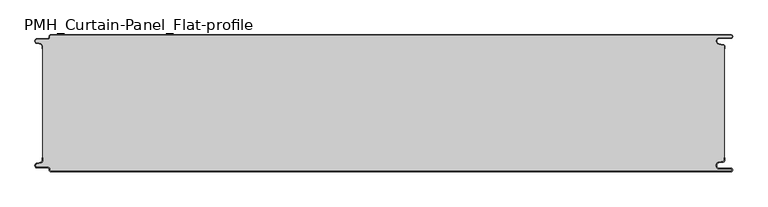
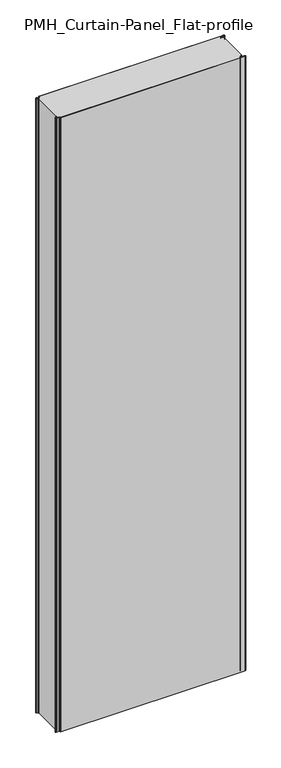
"""IFC4 building model written with IfcOpenShell, lengths in millimetres: plate geometry, PMH_Curtain-Panel_Flat-profile : ACH_PMH_Acoustic-Sectioning-Panel_200M."""

from ifc_helpers import new_model, si_unit, point, frame, frame_2d, origin, origin_with_axes, place, context, project, spatial, polyline, circle_curve, trimmed, segment, composite_curve, outline, extrude, source, transform, mapped, element, save
from ifc_brep_helpers import plane_surface, cylinder_surface, revolved_surface, advanced_brep


def pmh_curtain_panel_flat_profile_7e397283(model_context):
    return source(origin(), model_context, "Body", "SolidModel", [
        advanced_brep(
        [(508.1, 0.0, 3500.0), (510.6, 2.5000002, 3500.0), (508.1, 5.0, 3500.0), (491.1, 5.0, 3500.0), (490.405407, 12.939231, 3500.0), (496.8514855, 14.0758491, 3500.0), (499.0, 16.6363492, 3500.0), (499.0, 20.0, 3500.0), (498.2, 20.0, 3500.0), (498.2, 16.6363492, 3500.0), (496.7125669, 14.8636953, 3500.0), (490.2664884, 13.7270771, 3500.0), (491.1, 4.2, 3500.0), (508.1, 4.2, 3500.0), (508.1, 0.8, 3500.0), (-487.4, 0.8, 3500.0), (-488.6, 2.0, 3500.0), (-488.6, 3.4, 3500.0), (-491.4, 6.2, 3500.0), (-506.9, 6.2, 3500.0), (-507.529863, 11.7282362, 3500.0), (-501.370137, 13.150321, 3500.0), (-499.2, 15.878557, 3500.0), (-499.2, 20.0, 3500.0), (-500.0, 20.0, 3500.0), (-500.0, 15.878557, 3500.0), (-501.5500978, 13.9298169, 3500.0), (-507.7098239, 12.507732, 3500.0), (-506.9, 5.4, 3500.0), (-491.4, 5.4, 3500.0), (-489.4, 3.4, 3500.0), (-489.4, 2.0, 3500.0), (-487.4, 0.0, 3500.0), (-487.4, 0.0, 0.0), (-489.4, 2.0, 0.0), (-489.4, 3.4, 0.0), (-491.4, 5.4, 0.0), (-506.9, 5.4, 0.0), (-507.7098239, 12.5077322, 0.0), (-501.5500979, 13.929817, 0.0), (-500.0, 15.878557, 0.0), (-500.0, 20.0, 0.0), (-499.2, 20.0, 0.0), (-499.2, 15.878557, 0.0), (-501.370137, 13.1503208, 0.0), (-507.529863, 11.728236, 0.0), (-506.9, 6.2, 0.0), (-491.4, 6.2, 0.0), (-488.6, 3.4, 0.0), (-488.6, 2.0, 0.0), (-487.4, 0.8, 0.0), (508.1, 0.8, 0.0), (508.1, 4.2, 0.0), (491.1, 4.2, 0.0), (490.2664884, 13.7270771, 0.0), (496.7125669, 14.8636953, 0.0), (498.2, 16.6363492, 0.0), (498.2, 20.0, 0.0), (499.0, 20.0, 0.0), (499.0, 16.6363492, 0.0), (496.8514855, 14.0758491, 0.0), (490.405407, 12.939231, 0.0), (491.1, 5.0, 0.0), (508.1, 5.0, 0.0), (510.6, 2.4999998, 0.0), (508.1, 0.0, 0.0)],
        [
            (0, 1, circle_curve(frame((508.1, 2.5, 3500.0), z_axis=(0.0, 0.0, 1.0), x_axis=(1.0, 0.0, 0.0)), 2.5)),
            (1, 2, circle_curve(frame((508.1, 2.5, 3500.0), z_axis=(0.0, 0.0, 1.0), x_axis=(1.0, 0.0, 0.0)), 2.5)),
            (2, 3),
            (3, 4, circle_curve(frame((491.1, 9.0, 3500.0), z_axis=(0.0, 0.0, -1.0), x_axis=(1.0, 0.0, 0.0)), 4.0)),
            (4, 5),
            (5, 6, circle_curve(frame((496.4, 16.6363492, 3500.0), z_axis=(0.0, 0.0, 1.0), x_axis=(1.0, 0.0, 0.0)), 2.6)),
            (6, 7),
            (7, 8),
            (8, 9),
            (9, 10, circle_curve(frame((496.4, 16.6363492, 3500.0), z_axis=(0.0, 0.0, -1.0), x_axis=(1.0, 0.0, 0.0)), 1.8)),
            (10, 11),
            (11, 12, circle_curve(frame((491.1, 9.0, 3500.0), z_axis=(0.0, 0.0, 1.0), x_axis=(1.0, 0.0, 0.0)), 4.8)),
            (12, 13),
            (13, 14, circle_curve(frame((508.1, 2.5, 3500.0), z_axis=(0.0, 0.0, -1.0), x_axis=(1.0, 0.0, 0.0)), 1.7)),
            (14, 15),
            (15, 16, circle_curve(frame((-487.4, 2.0, 3500.0), z_axis=(0.0, 0.0, -1.0), x_axis=(1.0, 0.0, 0.0)), 1.2)),
            (16, 17),
            (17, 18, circle_curve(frame((-491.4, 3.4, 3500.0), z_axis=(0.0, 0.0, 1.0), x_axis=(1.0, 0.0, 0.0)), 2.8)),
            (18, 19),
            (19, 20, circle_curve(frame((-506.9, 9.0, 3500.0), z_axis=(0.0, 0.0, -1.0), x_axis=(1.0, 0.0, 0.0)), 2.8)),
            (20, 21),
            (21, 22, circle_curve(frame((-502.0, 15.878557, 3500.0), z_axis=(0.0, 0.0, 1.0), x_axis=(1.0, 0.0, 0.0)), 2.8)),
            (22, 23),
            (23, 24),
            (24, 25),
            (25, 26, circle_curve(frame((-502.0, 15.878557, 3500.0), z_axis=(0.0, 0.0, -1.0), x_axis=(1.0, 0.0, 0.0)), 2.0)),
            (26, 27),
            (27, 28, circle_curve(frame((-506.9, 9.0, 3500.0), z_axis=(0.0, 0.0, 1.0), x_axis=(1.0, 0.0, 0.0)), 3.6)),
            (28, 29),
            (29, 30, circle_curve(frame((-491.4, 3.4, 3500.0), z_axis=(0.0, 0.0, -1.0), x_axis=(1.0, 0.0, 0.0)), 2.0)),
            (30, 31),
            (31, 32, circle_curve(frame((-487.4, 2.0, 3500.0), z_axis=(0.0, 0.0, 1.0), x_axis=(1.0, 0.0, 0.0)), 2.0)),
            (32, 0),
            (33, 34, circle_curve(frame((-487.4, 2.0, 0.0), z_axis=(0.0, 0.0, -1.0), x_axis=(1.0, 0.0, 0.0)), 2.0)),
            (34, 35),
            (35, 36, circle_curve(frame((-491.4, 3.4, 0.0), z_axis=(0.0, 0.0, 1.0), x_axis=(1.0, 0.0, 0.0)), 2.0)),
            (36, 37),
            (37, 38, circle_curve(frame((-506.9, 9.0, 0.0), z_axis=(0.0, 0.0, -1.0), x_axis=(1.0, 0.0, 0.0)), 3.6)),
            (38, 39),
            (39, 40, circle_curve(frame((-502.0, 15.878557, 0.0), z_axis=(0.0, 0.0, 1.0), x_axis=(1.0, 0.0, 0.0)), 2.0)),
            (40, 41),
            (41, 42),
            (42, 43),
            (43, 44, circle_curve(frame((-502.0, 15.878557, 0.0), z_axis=(0.0, 0.0, -1.0), x_axis=(1.0, 0.0, 0.0)), 2.8)),
            (44, 45),
            (45, 46, circle_curve(frame((-506.9, 9.0, 0.0), z_axis=(0.0, 0.0, 1.0), x_axis=(1.0, 0.0, 0.0)), 2.8)),
            (46, 47),
            (47, 48, circle_curve(frame((-491.4, 3.4, 0.0), z_axis=(0.0, 0.0, -1.0), x_axis=(1.0, 0.0, 0.0)), 2.8)),
            (48, 49),
            (49, 50, circle_curve(frame((-487.4, 2.0, 0.0), z_axis=(0.0, 0.0, 1.0), x_axis=(1.0, 0.0, 0.0)), 1.2)),
            (50, 51),
            (51, 52, circle_curve(frame((508.1, 2.5, 0.0), z_axis=(0.0, 0.0, 1.0), x_axis=(1.0, 0.0, 0.0)), 1.7)),
            (52, 53),
            (53, 54, circle_curve(frame((491.1, 9.0, 0.0), z_axis=(0.0, 0.0, -1.0), x_axis=(1.0, 0.0, 0.0)), 4.8)),
            (54, 55),
            (55, 56, circle_curve(frame((496.4, 16.6363492, 0.0), z_axis=(0.0, 0.0, 1.0), x_axis=(1.0, 0.0, 0.0)), 1.8)),
            (56, 57),
            (57, 58),
            (58, 59),
            (59, 60, circle_curve(frame((496.4, 16.6363492, 0.0), z_axis=(0.0, 0.0, -1.0), x_axis=(1.0, 0.0, 0.0)), 2.6)),
            (60, 61),
            (61, 62, circle_curve(frame((491.1, 9.0, 0.0), z_axis=(0.0, 0.0, 1.0), x_axis=(1.0, 0.0, 0.0)), 4.0)),
            (62, 63),
            (63, 64, circle_curve(frame((508.1, 2.5, 0.0), z_axis=(0.0, 0.0, -1.0), x_axis=(1.0, 0.0, 0.0)), 2.5)),
            (64, 65, circle_curve(frame((508.1, 2.5, 0.0), z_axis=(0.0, 0.0, -1.0), x_axis=(1.0, 0.0, 0.0)), 2.5)),
            (65, 33),
            (31, 34),
            (33, 32),
            (30, 35),
            (29, 36),
            (28, 37),
            (27, 38),
            (26, 39),
            (25, 40),
            (24, 41),
            (23, 42),
            (22, 43),
            (21, 44),
            (20, 45),
            (19, 46),
            (18, 47),
            (17, 48),
            (16, 49),
            (15, 50),
            (14, 51),
            (13, 52),
            (12, 53),
            (11, 54),
            (10, 55),
            (9, 56),
            (8, 57),
            (7, 58),
            (6, 59),
            (5, 60),
            (4, 61),
            (3, 62),
            (2, 63),
            (0, 65),
        ],
        [
            plane_surface(frame((-500.0, 0.0, 3500.0), z_axis=(0.0, 0.0, 1.0), x_axis=(0.0, -1.0, 0.0))),
            plane_surface(frame((-500.0, 0.0, 0.0), z_axis=(0.0, 0.0, -1.0), x_axis=(0.0, -1.0, 0.0))),
            cylinder_surface(frame((-487.4, 2.0, 3500.0), z_axis=(0.0, 0.0, 1.0), x_axis=(1.0, 0.0, 0.0)), 2.0),
            plane_surface(frame((-489.4, 2.0, 3500.0), z_axis=(-1.0, 0.0, 0.0), x_axis=(0.0, 0.0, -1.0))),
            revolved_surface(polyline([(-489.4, 3.4, 0.0), (-489.4, 3.4, 3500.0)]), (-491.4, 3.4, 3500.0), (0.0, 0.0, -1.0)),
            plane_surface(frame((-491.4, 5.4, 3500.0), z_axis=(0.0, -1.0, 0.0), x_axis=(0.0, 0.0, -1.0))),
            cylinder_surface(frame((-506.9, 9.0, 3500.0), z_axis=(0.0, 0.0, 1.0), x_axis=(1.0, 0.0, 0.0)), 3.6),
            plane_surface(frame((-507.7098239, 12.507732, 3500.0), z_axis=(-0.2249510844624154, 0.9743700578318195, 0.0), x_axis=(0.0, 0.0, -1.0))),
            revolved_surface(polyline([(-500.0, 15.878557, 0.0), (-500.0, 15.878557, 3500.0)]), (-502.0, 15.878557, 3500.0), (0.0, 0.0, -1.0)),
            plane_surface(frame((-500.0, 15.878557, 3500.0), z_axis=(-1.0, 0.0, 0.0), x_axis=(0.0, 0.0, -1.0))),
            plane_surface(frame((-500.0, 20.0, 3500.0), z_axis=(0.0, 1.0, 0.0), x_axis=(0.0, 0.0, -1.0))),
            plane_surface(frame((-499.2, 20.0, 3500.0), z_axis=(1.0, 0.0, 0.0), x_axis=(0.0, 0.0, -1.0))),
            cylinder_surface(frame((-502.0, 15.878557, 3500.0), z_axis=(0.0, 0.0, 1.0), x_axis=(1.0, 0.0, 0.0)), 2.8),
            plane_surface(frame((-501.370137, 13.150321, 3500.0), z_axis=(0.22495108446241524, -0.9743700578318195, 0.0), x_axis=(0.0, 0.0, -1.0))),
            revolved_surface(polyline([(-504.09999999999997, 9.0, 0.0), (-504.09999999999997, 9.0, 3500.0)]), (-506.9, 9.0, 3500.0), (0.0, 0.0, -1.0)),
            plane_surface(frame((-506.9, 6.2, 3500.0), z_axis=(0.0, 1.0, 0.0), x_axis=(0.0, 0.0, -1.0))),
            cylinder_surface(frame((-491.4, 3.4, 3500.0), z_axis=(0.0, 0.0, 1.0), x_axis=(1.0, 0.0, 0.0)), 2.8),
            plane_surface(frame((-488.6, 3.4, 3500.0), z_axis=(1.0, 0.0, 0.0), x_axis=(0.0, 0.0, -1.0))),
            revolved_surface(polyline([(-486.2, 2.0, 0.0), (-486.2, 2.0, 3500.0)]), (-487.4, 2.0, 3500.0), (0.0, 0.0, -1.0)),
            plane_surface(frame((-487.4, 0.8, 3500.0), z_axis=(0.0, 1.0, 0.0), x_axis=(0.0, 0.0, -1.0))),
            revolved_surface(polyline([(509.8, 2.5, 0.0), (509.8, 2.5, 3500.0)]), (508.1, 2.5, 3500.0), (0.0, 0.0, -1.0)),
            plane_surface(frame((508.1, 4.2, 3500.0), z_axis=(0.0, -1.0, 0.0), x_axis=(0.0, 0.0, -1.0))),
            cylinder_surface(frame((491.1, 9.0, 3500.0), z_axis=(0.0, 0.0, 1.0), x_axis=(1.0, 0.0, 0.0)), 4.8),
            plane_surface(frame((490.2664884, 13.7270771, 3500.0), z_axis=(-0.17364826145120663, 0.984807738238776, 0.0), x_axis=(0.0, 0.0, -1.0))),
            revolved_surface(polyline([(498.2, 16.6363492, 0.0), (498.2, 16.6363492, 3500.0)]), (496.4, 16.6363492, 3500.0), (0.0, 0.0, -1.0)),
            plane_surface(frame((498.2, 16.6363492, 3500.0), z_axis=(-1.0, 0.0, 0.0), x_axis=(0.0, 0.0, -1.0))),
            plane_surface(frame((498.2, 20.0, 3500.0), z_axis=(0.0, 1.0, 0.0), x_axis=(0.0, 0.0, -1.0))),
            plane_surface(frame((499.0, 20.0, 3500.0), z_axis=(1.0, 0.0, 0.0), x_axis=(0.0, 0.0, -1.0))),
            cylinder_surface(frame((496.4, 16.6363492, 3500.0), z_axis=(0.0, 0.0, 1.0), x_axis=(1.0, 0.0, 0.0)), 2.6),
            plane_surface(frame((496.8514855, 14.0758491, 3500.0), z_axis=(0.17364826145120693, -0.9848077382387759, 0.0), x_axis=(0.0, 0.0, -1.0))),
            revolved_surface(polyline([(495.1, 9.0, 0.0), (495.1, 9.0, 3500.0)]), (491.1, 9.0, 3500.0), (0.0, 0.0, -1.0)),
            plane_surface(frame((491.1, 5.0, 3500.0), z_axis=(0.0, 1.0, 0.0), x_axis=(0.0, 0.0, -1.0))),
            cylinder_surface(frame((508.1, 2.5, 3500.0), z_axis=(0.0, 0.0, 1.0), x_axis=(1.0, 0.0, 0.0)), 2.5),
            plane_surface(frame((490.5783588, 0.0, 3500.0), z_axis=(0.0, -1.0, 0.0), x_axis=(0.0, 0.0, -1.0))),
        ],
        [
            (0, [[1, 2, 3, 4, 5, 6, 7, 8, 9, 10, 11, 12, 13, 14, 15, 16, 17, 18, 19, 20, 21, 22, 23, 24, 25, 26, 27, 28, 29, 30, 31, 32, 33]]),
            (1, [[34, 35, 36, 37, 38, 39, 40, 41, 42, 43, 44, 45, 46, 47, 48, 49, 50, 51, 52, 53, 54, 55, 56, 57, 58, 59, 60, 61, 62, 63, 64, 65, 66]]),
            (2, [[67, -34, 68, -32]]),
            (3, [[69, -35, -67, -31]]),
            (4, [[70, -36, -69, -30]]),
            (5, [[71, -37, -70, -29]]),
            (6, [[72, -38, -71, -28]]),
            (7, [[73, -39, -72, -27]]),
            (8, [[74, -40, -73, -26]]),
            (9, [[75, -41, -74, -25]]),
            (10, [[76, -42, -75, -24]]),
            (11, [[77, -43, -76, -23]]),
            (12, [[78, -44, -77, -22]]),
            (13, [[79, -45, -78, -21]]),
            (14, [[80, -46, -79, -20]]),
            (15, [[81, -47, -80, -19]]),
            (16, [[82, -48, -81, -18]]),
            (17, [[83, -49, -82, -17]]),
            (18, [[84, -50, -83, -16]]),
            (19, [[85, -51, -84, -15]]),
            (20, [[86, -52, -85, -14]]),
            (21, [[87, -53, -86, -13]]),
            (22, [[88, -54, -87, -12]]),
            (23, [[89, -55, -88, -11]]),
            (24, [[90, -56, -89, -10]]),
            (25, [[91, -57, -90, -9]]),
            (26, [[92, -58, -91, -8]]),
            (27, [[93, -59, -92, -7]]),
            (28, [[94, -60, -93, -6]]),
            (29, [[95, -61, -94, -5]]),
            (30, [[96, -62, -95, -4]]),
            (31, [[97, -63, -96, -3]]),
            (32, [[-2, -1, 98, -65, -64, -97]]),
            (33, [[-68, -66, -98, -33]]),
        ],
    ),
        extrude(outline(composite_curve([segment(trimmed(circle_curve(frame_2d((-502.0, 184.1214426)), 2.8), [point((-499.2, 184.1214426))], [point((-501.370137, 186.8496788))], True, "CARTESIAN"), True, "CONTINUOUS"), segment(polyline([(-501.370137, 186.8496788), (-507.5298631, 188.2717638)]), True, "CONTINUOUS"), segment(trimmed(circle_curve(frame_2d((-506.9, 191.0)), 2.8), [point((-507.5298631, 188.2717638))], [point((-506.9, 193.8))], False, "CARTESIAN"), True, "CONTINUOUS"), segment(polyline([(-506.9, 193.8), (-491.4000001, 193.8)]), True, "CONTINUOUS"), segment(trimmed(circle_curve(frame_2d((-491.4000001, 196.6)), 2.8), [point((-491.4000001, 193.8))], [point((-488.6000001, 196.6))], True, "CARTESIAN"), True, "CONTINUOUS"), segment(polyline([(-488.6000001, 196.6), (-488.6000001, 198.0)]), True, "CONTINUOUS"), segment(trimmed(circle_curve(frame_2d((-487.4000001, 198.0)), 1.2), [point((-488.6000001, 198.0))], [point((-487.4000001, 199.2))], False, "CARTESIAN"), True, "CONTINUOUS"), segment(polyline([(-487.4000001, 199.2), (508.1, 199.2)]), True, "CONTINUOUS"), segment(trimmed(circle_curve(frame_2d((508.1, 197.5)), 1.7), [point((508.1, 199.2))], [point((508.1, 195.8))], False, "CARTESIAN"), True, "CONTINUOUS"), segment(polyline([(508.1, 195.8), (491.1, 195.8)]), True, "CONTINUOUS"), segment(trimmed(circle_curve(frame_2d((491.1, 191.0)), 4.8), [point((491.1, 195.8))], [point((490.2664883, 186.2729229))], True, "CARTESIAN"), True, "CONTINUOUS"), segment(polyline([(490.2664883, 186.2729229), (496.7125668, 185.1363047)]), True, "CONTINUOUS"), segment(trimmed(circle_curve(frame_2d((496.4, 183.3636508)), 1.8), [point((496.7125668, 185.1363047))], [point((498.2, 183.3636508))], False, "CARTESIAN"), True, "CONTINUOUS"), segment(polyline([(498.2, 183.3636508), (498.2, 16.6363492)]), True, "CONTINUOUS"), segment(trimmed(circle_curve(frame_2d((496.4, 16.6363492)), 1.8), [point((498.2, 16.6363492))], [point((496.7125668, 14.8636953))], False, "CARTESIAN"), True, "CONTINUOUS"), segment(polyline([(496.7125668, 14.8636953), (490.2664883, 13.7270771)]), True, "CONTINUOUS"), segment(trimmed(circle_curve(frame_2d((491.1, 9.0)), 4.8), [point((490.2664883, 13.7270771))], [point((491.1, 4.2))], True, "CARTESIAN"), True, "CONTINUOUS"), segment(polyline([(491.1, 4.2), (508.1, 4.2)]), True, "CONTINUOUS"), segment(trimmed(circle_curve(frame_2d((508.1, 2.5)), 1.7), [point((508.1, 4.2))], [point((508.1, 0.8))], False, "CARTESIAN"), True, "CONTINUOUS"), segment(polyline([(508.1, 0.8), (-487.4000001, 0.8)]), True, "CONTINUOUS"), segment(trimmed(circle_curve(frame_2d((-487.4000001, 2.0)), 1.2), [point((-487.4000001, 0.8))], [point((-488.6000001, 2.0))], False, "CARTESIAN"), True, "CONTINUOUS"), segment(polyline([(-488.6000001, 2.0), (-488.6000001, 3.4)]), True, "CONTINUOUS"), segment(trimmed(circle_curve(frame_2d((-491.4000001, 3.4)), 2.8), [point((-488.6000001, 3.4))], [point((-491.4000001, 6.2))], True, "CARTESIAN"), True, "CONTINUOUS"), segment(polyline([(-491.4000001, 6.2), (-506.9, 6.2)]), True, "CONTINUOUS"), segment(trimmed(circle_curve(frame_2d((-506.9, 9.0)), 2.8), [point((-506.9, 6.2))], [point((-507.5298631, 11.7282362))], False, "CARTESIAN"), True, "CONTINUOUS"), segment(polyline([(-507.5298631, 11.7282362), (-501.370137, 13.1503212)]), True, "CONTINUOUS"), segment(trimmed(circle_curve(frame_2d((-502.0, 15.8785573)), 2.8), [point((-501.370137, 13.1503212))], [point((-499.2, 15.8785573))], True, "CARTESIAN"), True, "CONTINUOUS"), segment(polyline([(-499.2, 15.8785573), (-499.2, 184.1214426)]), True, "CONTINUOUS")], self_intersect=False)), origin_with_axes(), (0.0, 0.0, 1.0), 3500.0),
        advanced_brep(
        [(-487.4, 200.0, 3500.0), (-489.4, 198.0, 3500.0), (-489.4, 196.6, 3500.0), (-491.4, 194.6, 3500.0), (-506.9, 194.6, 3500.0), (-507.7098239, 187.4922678, 3500.0), (-501.5500979, 186.070183, 3500.0), (-500.0, 184.121443, 3500.0), (-500.0, 180.0, 3500.0), (-499.2, 180.0, 3500.0), (-499.2, 184.121443, 3500.0), (-501.370137, 186.8496792, 3500.0), (-507.529863, 188.271764, 3500.0), (-506.9, 193.8, 3500.0), (-491.4, 193.8, 3500.0), (-488.6, 196.6, 3500.0), (-488.6, 198.0, 3500.0), (-487.4, 199.2, 3500.0), (508.1, 199.2, 3500.0), (508.1, 195.8, 3500.0), (491.1, 195.8, 3500.0), (490.2664884, 186.2729229, 3500.0), (496.7125669, 185.1363047, 3500.0), (498.2, 183.3636508, 3500.0), (498.2, 180.0, 3500.0), (499.0, 180.0, 3500.0), (499.0, 183.3636508, 3500.0), (496.8514855, 185.9241509, 3500.0), (490.405407, 187.060769, 3500.0), (491.1, 195.0, 3500.0), (508.1, 195.0, 3500.0), (510.6, 197.5000002, 3500.0), (508.1, 200.0, 3500.0), (508.1, 200.0, 0.0), (510.6, 197.4999998, 0.0), (508.1, 195.0, 0.0), (491.1, 195.0, 0.0), (490.405407, 187.060769, 0.0), (496.8514855, 185.9241509, 0.0), (499.0, 183.3636508, 0.0), (499.0, 180.0, 0.0), (498.2, 180.0, 0.0), (498.2, 183.3636508, 0.0), (496.7125669, 185.1363047, 0.0), (490.2664884, 186.2729229, 0.0), (491.1, 195.8, 0.0), (508.1, 195.8, 0.0), (508.1, 199.2, 0.0), (-487.4, 199.2, 0.0), (-488.6, 198.0, 0.0), (-488.6, 196.6, 0.0), (-491.4, 193.8, 0.0), (-506.9, 193.8, 0.0), (-507.529863, 188.2717638, 0.0), (-501.370137, 186.849679, 0.0), (-499.2, 184.121443, 0.0), (-499.2, 180.0, 0.0), (-500.0, 180.0, 0.0), (-500.0, 184.121443, 0.0), (-501.5500978, 186.0701831, 0.0), (-507.7098239, 187.492268, 0.0), (-506.9, 194.6, 0.0), (-491.4, 194.6, 0.0), (-489.4, 196.6, 0.0), (-489.4, 198.0, 0.0), (-487.4, 200.0, 0.0)],
        [
            (0, 1, circle_curve(frame((-487.4, 198.0, 3500.0), z_axis=(0.0, 0.0, 1.0), x_axis=(1.0, 0.0, 0.0)), 2.0)),
            (1, 2),
            (2, 3, circle_curve(frame((-491.4, 196.6, 3500.0), z_axis=(0.0, 0.0, -1.0), x_axis=(1.0, 0.0, 0.0)), 2.0)),
            (3, 4),
            (4, 5, circle_curve(frame((-506.9, 191.0, 3500.0), z_axis=(0.0, 0.0, 1.0), x_axis=(1.0, 0.0, 0.0)), 3.6)),
            (5, 6),
            (6, 7, circle_curve(frame((-502.0, 184.121443, 3500.0), z_axis=(0.0, 0.0, -1.0), x_axis=(1.0, 0.0, 0.0)), 2.0)),
            (7, 8),
            (8, 9),
            (9, 10),
            (10, 11, circle_curve(frame((-502.0, 184.121443, 3500.0), z_axis=(0.0, 0.0, 1.0), x_axis=(1.0, 0.0, 0.0)), 2.8)),
            (11, 12),
            (12, 13, circle_curve(frame((-506.9, 191.0, 3500.0), z_axis=(0.0, 0.0, -1.0), x_axis=(1.0, 0.0, 0.0)), 2.8)),
            (13, 14),
            (14, 15, circle_curve(frame((-491.4, 196.6, 3500.0), z_axis=(0.0, 0.0, 1.0), x_axis=(1.0, 0.0, 0.0)), 2.8)),
            (15, 16),
            (16, 17, circle_curve(frame((-487.4, 198.0, 3500.0), z_axis=(0.0, 0.0, -1.0), x_axis=(1.0, 0.0, 0.0)), 1.2)),
            (17, 18),
            (18, 19, circle_curve(frame((508.1, 197.5, 3500.0), z_axis=(0.0, 0.0, -1.0), x_axis=(1.0, 0.0, 0.0)), 1.7)),
            (19, 20),
            (20, 21, circle_curve(frame((491.1, 191.0, 3500.0), z_axis=(0.0, 0.0, 1.0), x_axis=(1.0, 0.0, 0.0)), 4.8)),
            (21, 22),
            (22, 23, circle_curve(frame((496.4, 183.3636508, 3500.0), z_axis=(0.0, 0.0, -1.0), x_axis=(1.0, 0.0, 0.0)), 1.8)),
            (23, 24),
            (24, 25),
            (25, 26),
            (26, 27, circle_curve(frame((496.4, 183.3636508, 3500.0), z_axis=(0.0, 0.0, 1.0), x_axis=(1.0, 0.0, 0.0)), 2.6)),
            (27, 28),
            (28, 29, circle_curve(frame((491.1, 191.0, 3500.0), z_axis=(0.0, 0.0, -1.0), x_axis=(1.0, 0.0, 0.0)), 4.0)),
            (29, 30),
            (30, 31, circle_curve(frame((508.1, 197.5, 3500.0), z_axis=(0.0, 0.0, 1.0), x_axis=(1.0, 0.0, 0.0)), 2.5)),
            (31, 32, circle_curve(frame((508.1, 197.5, 3500.0), z_axis=(0.0, 0.0, 1.0), x_axis=(1.0, 0.0, 0.0)), 2.5)),
            (32, 0),
            (33, 34, circle_curve(frame((508.1, 197.5, 0.0), z_axis=(0.0, 0.0, -1.0), x_axis=(1.0, 0.0, 0.0)), 2.5)),
            (34, 35, circle_curve(frame((508.1, 197.5, 0.0), z_axis=(0.0, 0.0, -1.0), x_axis=(1.0, 0.0, 0.0)), 2.5)),
            (35, 36),
            (36, 37, circle_curve(frame((491.1, 191.0, 0.0), z_axis=(0.0, 0.0, 1.0), x_axis=(1.0, 0.0, 0.0)), 4.0)),
            (37, 38),
            (38, 39, circle_curve(frame((496.4, 183.3636508, 0.0), z_axis=(0.0, 0.0, -1.0), x_axis=(1.0, 0.0, 0.0)), 2.6)),
            (39, 40),
            (40, 41),
            (41, 42),
            (42, 43, circle_curve(frame((496.4, 183.3636508, 0.0), z_axis=(0.0, 0.0, 1.0), x_axis=(1.0, 0.0, 0.0)), 1.8)),
            (43, 44),
            (44, 45, circle_curve(frame((491.1, 191.0, 0.0), z_axis=(0.0, 0.0, -1.0), x_axis=(1.0, 0.0, 0.0)), 4.8)),
            (45, 46),
            (46, 47, circle_curve(frame((508.1, 197.5, 0.0), z_axis=(0.0, 0.0, 1.0), x_axis=(1.0, 0.0, 0.0)), 1.7)),
            (47, 48),
            (48, 49, circle_curve(frame((-487.4, 198.0, 0.0), z_axis=(0.0, 0.0, 1.0), x_axis=(1.0, 0.0, 0.0)), 1.2)),
            (49, 50),
            (50, 51, circle_curve(frame((-491.4, 196.6, 0.0), z_axis=(0.0, 0.0, -1.0), x_axis=(1.0, 0.0, 0.0)), 2.8)),
            (51, 52),
            (52, 53, circle_curve(frame((-506.9, 191.0, 0.0), z_axis=(0.0, 0.0, 1.0), x_axis=(1.0, 0.0, 0.0)), 2.8)),
            (53, 54),
            (54, 55, circle_curve(frame((-502.0, 184.121443, 0.0), z_axis=(0.0, 0.0, -1.0), x_axis=(1.0, 0.0, 0.0)), 2.8)),
            (55, 56),
            (56, 57),
            (57, 58),
            (58, 59, circle_curve(frame((-502.0, 184.121443, 0.0), z_axis=(0.0, 0.0, 1.0), x_axis=(1.0, 0.0, 0.0)), 2.0)),
            (59, 60),
            (60, 61, circle_curve(frame((-506.9, 191.0, 0.0), z_axis=(0.0, 0.0, -1.0), x_axis=(1.0, 0.0, 0.0)), 3.6)),
            (61, 62),
            (62, 63, circle_curve(frame((-491.4, 196.6, 0.0), z_axis=(0.0, 0.0, 1.0), x_axis=(1.0, 0.0, 0.0)), 2.0)),
            (63, 64),
            (64, 65, circle_curve(frame((-487.4, 198.0, 0.0), z_axis=(0.0, 0.0, -1.0), x_axis=(1.0, 0.0, 0.0)), 2.0)),
            (65, 33),
            (32, 33),
            (65, 0),
            (30, 35),
            (29, 36),
            (28, 37),
            (27, 38),
            (26, 39),
            (25, 40),
            (24, 41),
            (23, 42),
            (22, 43),
            (21, 44),
            (20, 45),
            (19, 46),
            (18, 47),
            (17, 48),
            (16, 49),
            (15, 50),
            (14, 51),
            (13, 52),
            (12, 53),
            (11, 54),
            (10, 55),
            (9, 56),
            (8, 57),
            (7, 58),
            (6, 59),
            (5, 60),
            (4, 61),
            (3, 62),
            (2, 63),
            (1, 64),
        ],
        [
            plane_surface(frame((-500.0, 200.0, 3500.0), z_axis=(0.0, 0.0, 1.0), x_axis=(0.0, -1.0, 0.0))),
            plane_surface(frame((-500.0, 200.0, 0.0), z_axis=(0.0, 0.0, -1.0), x_axis=(0.0, -1.0, 0.0))),
            plane_surface(frame((490.5783588, 200.0, 3500.0), z_axis=(0.0, 1.0, 0.0), x_axis=(0.0, 0.0, -1.0))),
            cylinder_surface(frame((508.1, 197.5, 3500.0), z_axis=(0.0, 0.0, 1.0), x_axis=(1.0, 0.0, 0.0)), 2.5),
            plane_surface(frame((508.1, 195.0, 3500.0), z_axis=(0.0, -1.0, 0.0), x_axis=(0.0, 0.0, -1.0))),
            revolved_surface(polyline([(495.1, 191.0, 0.0), (495.1, 191.0, 3500.0)]), (491.1, 191.0, 3500.0), (0.0, 0.0, -1.0)),
            plane_surface(frame((490.405407, 187.060769, 3500.0), z_axis=(0.17364826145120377, 0.9848077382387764, 0.0), x_axis=(0.0, 0.0, -1.0))),
            cylinder_surface(frame((496.4, 183.3636508, 3500.0), z_axis=(0.0, 0.0, 1.0), x_axis=(1.0, 0.0, 0.0)), 2.6),
            plane_surface(frame((499.0, 183.3636508, 3500.0), z_axis=(1.0, 0.0, 0.0), x_axis=(0.0, 0.0, -1.0))),
            plane_surface(frame((499.0, 180.0, 3500.0), z_axis=(0.0, -1.0, 0.0), x_axis=(0.0, 0.0, -1.0))),
            plane_surface(frame((498.2, 180.0, 3500.0), z_axis=(-1.0, 0.0, 0.0), x_axis=(0.0, 0.0, -1.0))),
            revolved_surface(polyline([(498.2, 183.3636508, 0.0), (498.2, 183.3636508, 3500.0)]), (496.4, 183.3636508, 3500.0), (0.0, 0.0, -1.0)),
            plane_surface(frame((496.7125669, 185.1363047, 3500.0), z_axis=(-0.17364826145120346, -0.9848077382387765, 0.0), x_axis=(0.0, 0.0, -1.0))),
            cylinder_surface(frame((491.1, 191.0, 3500.0), z_axis=(0.0, 0.0, 1.0), x_axis=(1.0, 0.0, 0.0)), 4.8),
            plane_surface(frame((491.1, 195.8, 3500.0), z_axis=(0.0, 1.0, 0.0), x_axis=(0.0, 0.0, -1.0))),
            revolved_surface(polyline([(509.8, 197.5, 0.0), (509.8, 197.5, 3500.0)]), (508.1, 197.5, 3500.0), (0.0, 0.0, -1.0)),
            plane_surface(frame((508.1, 199.2, 3500.0), z_axis=(0.0, -1.0, 0.0), x_axis=(0.0, 0.0, -1.0))),
            revolved_surface(polyline([(-486.2, 198.0, 0.0), (-486.2, 198.0, 3500.0)]), (-487.4, 198.0, 3500.0), (0.0, 0.0, -1.0)),
            plane_surface(frame((-488.6, 198.0, 3500.0), z_axis=(1.0, 0.0, 0.0), x_axis=(0.0, 0.0, -1.0))),
            cylinder_surface(frame((-491.4, 196.6, 3500.0), z_axis=(0.0, 0.0, 1.0), x_axis=(1.0, 0.0, 0.0)), 2.8),
            plane_surface(frame((-491.4, 193.8, 3500.0), z_axis=(0.0, -1.0, 0.0), x_axis=(0.0, 0.0, -1.0))),
            revolved_surface(polyline([(-504.09999999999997, 191.0, 0.0), (-504.09999999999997, 191.0, 3500.0)]), (-506.9, 191.0, 3500.0), (0.0, 0.0, -1.0)),
            plane_surface(frame((-507.529863, 188.271764, 3500.0), z_axis=(0.2249510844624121, 0.9743700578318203, 0.0), x_axis=(0.0, 0.0, -1.0))),
            cylinder_surface(frame((-502.0, 184.121443, 3500.0), z_axis=(0.0, 0.0, 1.0), x_axis=(1.0, 0.0, 0.0)), 2.8),
            plane_surface(frame((-499.2, 184.121443, 3500.0), z_axis=(1.0, 0.0, 0.0), x_axis=(0.0, 0.0, -1.0))),
            plane_surface(frame((-499.2, 180.0, 3500.0), z_axis=(0.0, -1.0, 0.0), x_axis=(0.0, 0.0, -1.0))),
            plane_surface(frame((-500.0, 180.0, 3500.0), z_axis=(-1.0, 0.0, 0.0), x_axis=(0.0, 0.0, -1.0))),
            revolved_surface(polyline([(-500.0, 184.121443, 0.0), (-500.0, 184.121443, 3500.0)]), (-502.0, 184.121443, 3500.0), (0.0, 0.0, -1.0)),
            plane_surface(frame((-501.5500979, 186.070183, 3500.0), z_axis=(-0.22495108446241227, -0.9743700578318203, 0.0), x_axis=(0.0, 0.0, -1.0))),
            cylinder_surface(frame((-506.9, 191.0, 3500.0), z_axis=(0.0, 0.0, 1.0), x_axis=(1.0, 0.0, 0.0)), 3.6),
            plane_surface(frame((-506.9, 194.6, 3500.0), z_axis=(0.0, 1.0, 0.0), x_axis=(0.0, 0.0, -1.0))),
            revolved_surface(polyline([(-489.4, 196.6, 0.0), (-489.4, 196.6, 3500.0)]), (-491.4, 196.6, 3500.0), (0.0, 0.0, -1.0)),
            plane_surface(frame((-489.4, 196.6, 3500.0), z_axis=(-1.0, 0.0, 0.0), x_axis=(0.0, 0.0, -1.0))),
            cylinder_surface(frame((-487.4, 198.0, 3500.0), z_axis=(0.0, 0.0, 1.0), x_axis=(1.0, 0.0, 0.0)), 2.0),
        ],
        [
            (0, [[1, 2, 3, 4, 5, 6, 7, 8, 9, 10, 11, 12, 13, 14, 15, 16, 17, 18, 19, 20, 21, 22, 23, 24, 25, 26, 27, 28, 29, 30, 31, 32, 33]]),
            (1, [[34, 35, 36, 37, 38, 39, 40, 41, 42, 43, 44, 45, 46, 47, 48, 49, 50, 51, 52, 53, 54, 55, 56, 57, 58, 59, 60, 61, 62, 63, 64, 65, 66]]),
            (2, [[67, -66, 68, -33]]),
            (3, [[-32, -31, 69, -35, -34, -67]]),
            (4, [[70, -36, -69, -30]]),
            (5, [[71, -37, -70, -29]]),
            (6, [[72, -38, -71, -28]]),
            (7, [[73, -39, -72, -27]]),
            (8, [[74, -40, -73, -26]]),
            (9, [[75, -41, -74, -25]]),
            (10, [[76, -42, -75, -24]]),
            (11, [[77, -43, -76, -23]]),
            (12, [[78, -44, -77, -22]]),
            (13, [[79, -45, -78, -21]]),
            (14, [[80, -46, -79, -20]]),
            (15, [[81, -47, -80, -19]]),
            (16, [[82, -48, -81, -18]]),
            (17, [[83, -49, -82, -17]]),
            (18, [[84, -50, -83, -16]]),
            (19, [[85, -51, -84, -15]]),
            (20, [[86, -52, -85, -14]]),
            (21, [[87, -53, -86, -13]]),
            (22, [[88, -54, -87, -12]]),
            (23, [[89, -55, -88, -11]]),
            (24, [[90, -56, -89, -10]]),
            (25, [[91, -57, -90, -9]]),
            (26, [[92, -58, -91, -8]]),
            (27, [[93, -59, -92, -7]]),
            (28, [[94, -60, -93, -6]]),
            (29, [[95, -61, -94, -5]]),
            (30, [[96, -62, -95, -4]]),
            (31, [[97, -63, -96, -3]]),
            (32, [[98, -64, -97, -2]]),
            (33, [[-68, -65, -98, -1]]),
        ],
    ),
    ])


if __name__ == "__main__":
    model = new_model("IFC4")
    model_context = context("Model", 3, world=origin())
    ifc_project = project(units=[si_unit("LENGTHUNIT", "METRE", prefix="MILLI")], contexts=[model_context])
    site = spatial("IfcSite", under=ifc_project)
    building = spatial("IfcBuilding", under=site)
    placement = place(None, origin())
    pmh_curtain_panel_flat_profile_shape = pmh_curtain_panel_flat_profile_7e397283(model_context)
    element("IfcPlate", 1, ObjectType="PMH_Curtain-Panel_Flat-profile : ACH_PMH_Acoustic-Sectioning-Panel_200M", at=placement, inside=building, context=model_context, shape_type="MappedRepresentation", body=[
        mapped(pmh_curtain_panel_flat_profile_shape, transform((0.0, 0.0, 0.0), x_axis=(1.0, 0.0, 0.0), y_axis=(0.0, 1.0, 0.0), z_axis=(0.0, 0.0, 1.0))),
    ])
    save(model, "model.ifc")
